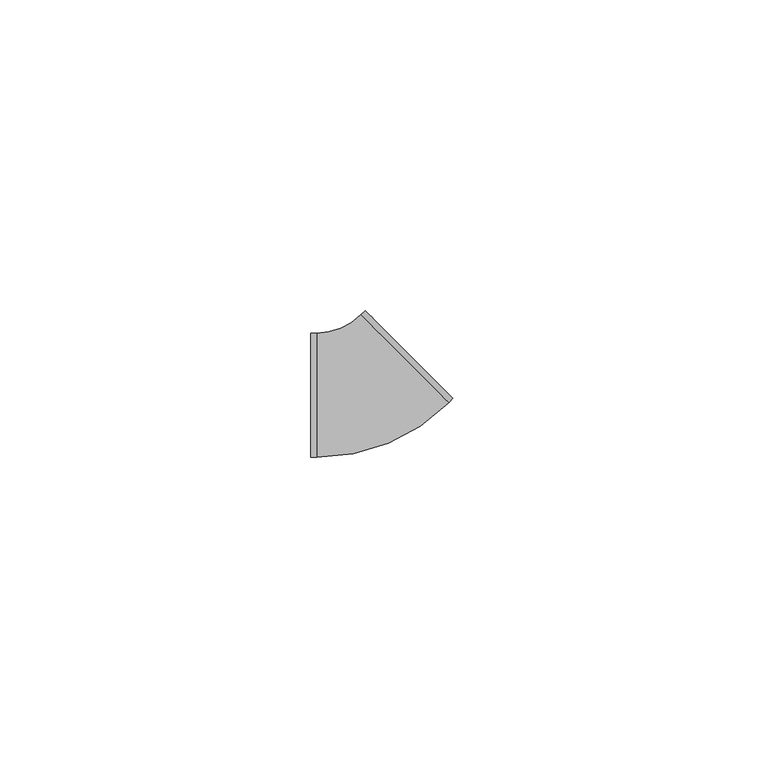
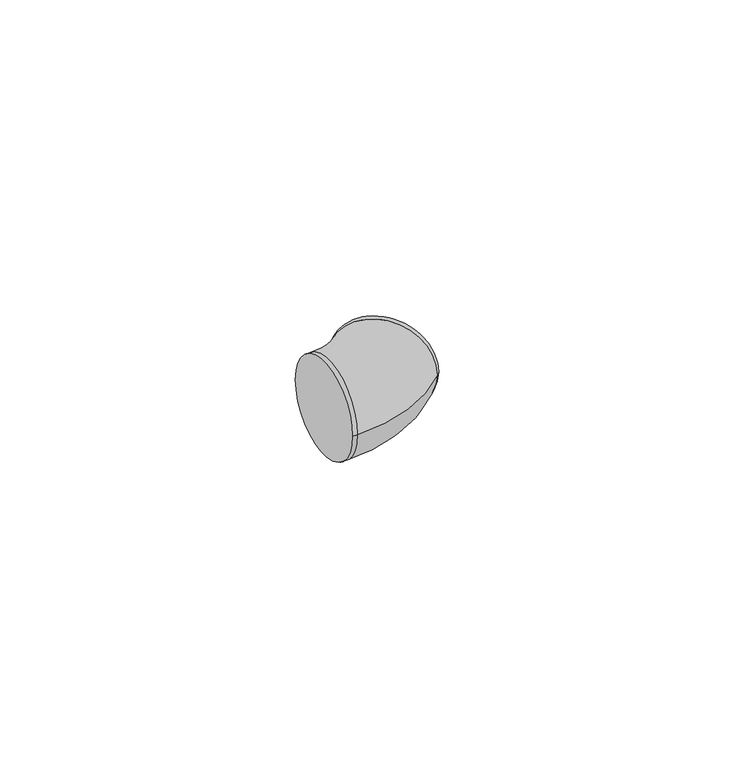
"""IFC4 building model written with IfcOpenShell, lengths in millimetres: cable carrier fitting geometry, ADSK_Поворот_Минимальный размер : Неспецифицируемый."""

from ifc_helpers import new_model, si_unit, point, frame, origin, place, context, project, spatial, circle_curve, ellipse_curve, trimmed, source, transform, mapped, element, save
from ifc_brep_helpers import plane_surface, cylinder_surface, revolved_surface, advanced_brep


def cable_carrier_fitting_4b72e086(model_context):
    return source(origin(), model_context, "Body", "AdvancedBrep", [
        advanced_brep(
        [(-9.2842358, -10.0, 0.0), (-9.2842358, 10.0, 0.0), (-8.2842358, -10.0, 0.0), (-8.2842358, 10.0, 0.0), (-1.2131894, 12.9289108, 0.0), (12.9289034, -1.2132677, 0.0), (13.6360124, -0.506163, 0.0), (-0.5060805, 13.6360154, 0.0)],
        [
            (0, 1, circle_curve(frame((-9.2842358, 0.0, 0.0), z_axis=(-1.0, -4.92260399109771e-12, 0.0), x_axis=(-4.92260399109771e-12, 1.0, 0.0)), 10.0)),
            (1, 0, circle_curve(frame((-9.2842358, 0.0, 0.0), z_axis=(-1.0, -4.92260399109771e-12, 0.0), x_axis=(-4.92260399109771e-12, 1.0, 0.0)), 10.0)),
            (0, 2),
            (2, 3, circle_curve(frame((-8.2842358, 0.0, 0.0), z_axis=(-1.0, -4.92260399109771e-12, 0.0), x_axis=(-4.92260399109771e-12, 1.0, 0.0)), 10.0)),
            (3, 1),
            (3, 2, circle_curve(frame((-8.2842358, 0.0, 0.0), z_axis=(-1.0, -4.92260399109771e-12, 0.0), x_axis=(-4.92260399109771e-12, 1.0, 0.0)), 10.0)),
            (4, 3, circle_curve(frame((-8.2842358, 20.0, 0.0), z_axis=(0.0, 0.0, -1.0), x_axis=(0.0, -1.0, 0.0)), 10.0)),
            (2, 5, circle_curve(frame((-8.2842358, 20.0, 0.0), z_axis=(0.0, 0.0, 1.0), x_axis=(0.0, -1.0, 0.0)), 30.0)),
            (5, 4, circle_curve(frame((5.857857, 5.8578216, 0.0), z_axis=(-0.7071089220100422, -0.7071046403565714, 0.0), x_axis=(-0.7071046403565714, 0.7071089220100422, 0.0)), 10.0)),
            (4, 5, circle_curve(frame((5.857857, 5.8578216, 0.0), z_axis=(-0.7071089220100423, -0.7071046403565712, 0.0), x_axis=(-0.7071046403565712, 0.7071089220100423, 0.0)), 10.0)),
            (6, 7, circle_curve(frame((6.564966, 6.5649262, 0.0), z_axis=(0.7071089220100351, 0.7071046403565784, 0.0), x_axis=(-0.7071046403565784, 0.7071089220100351, 0.0)), 10.0)),
            (7, 6, circle_curve(frame((6.564966, 6.5649262, 0.0), z_axis=(0.7071089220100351, 0.7071046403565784, 0.0), x_axis=(-0.7071046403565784, 0.7071089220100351, 0.0)), 10.0)),
            (5, 6),
            (7, 4),
        ],
        [
            plane_surface(frame((-9.2842358, 0.0, 0.0), z_axis=(-1.0, -4.92260399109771e-12, 0.0), x_axis=(0.0, 0.0, 1.0))),
            cylinder_surface(frame((-9.2842358, 0.0, 0.0), z_axis=(-1.0, -4.92260399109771e-12, 0.0), x_axis=(-4.92260399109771e-12, 1.0, 0.0)), 10.0),
            revolved_surface(trimmed(ellipse_curve(frame((-8.2842358, 0.0, 0.0), z_axis=(-1.0, 0.0, 0.0), x_axis=(0.0, 1.0, 0.0)), 10.0, 10.0), [point((-8.2842358, -10.0, 0.0))], [point((-8.2842358, 10.0, 0.0))], True, "CARTESIAN"), (-8.2842358, 20.0, 0.0), (0.0, 0.0, 1.0)),
            revolved_surface(trimmed(ellipse_curve(frame((-8.2842358, 0.0, 0.0), z_axis=(-1.0, 0.0, 0.0), x_axis=(0.0, 1.0, 0.0)), 10.0, 10.0), [point((-8.2842358, 10.0, 0.0))], [point((-8.2842358, -10.0, 0.0))], True, "CARTESIAN"), (-8.2842358, 20.0, 0.0), (0.0, 0.0, 1.0)),
            plane_surface(frame((6.564966, 6.5649262, 0.0), z_axis=(0.7071089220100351, 0.7071046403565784, 0.0), x_axis=(0.0, 0.0, 1.0))),
            cylinder_surface(frame((5.857857, 5.8578216, 0.0), z_axis=(-0.7071089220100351, -0.7071046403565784, 0.0), x_axis=(-0.7071046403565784, 0.7071089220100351, 0.0)), 10.0),
        ],
        [
            (0, [[1, 2]]),
            (1, [[-1, 3, 4, 5]]),
            (1, [[-2, -5, 6, -3]]),
            (2, [[7, -4, 8, 9]]),
            (3, [[-8, -6, -7, 10]]),
            (4, [[11, 12]]),
            (5, [[-9, 13, -12, 14]]),
            (5, [[-10, -14, -11, -13]]),
        ],
    ),
    ])


if __name__ == "__main__":
    model = new_model("IFC4")
    model_context = context("Model", 3, world=origin())
    ifc_project = project(units=[si_unit("LENGTHUNIT", "METRE", prefix="MILLI")], contexts=[model_context])
    site = spatial("IfcSite", under=ifc_project)
    building = spatial("IfcBuilding", under=site)
    placement = place(None, origin())
    cable_carrier_fitting_shape = cable_carrier_fitting_4b72e086(model_context)
    element("IfcCableCarrierFitting", 1, ObjectType="ADSK_Поворот_Минимальный размер : Неспецифицируемый", at=placement, inside=building, context=model_context, shape_type="MappedRepresentation", body=[
        mapped(cable_carrier_fitting_shape, transform((0.0, 0.0, 0.0), x_axis=(1.0, 0.0, 0.0), y_axis=(0.0, 1.0, 0.0), z_axis=(0.0, 0.0, 1.0))),
    ])
    save(model, "model.ifc")
